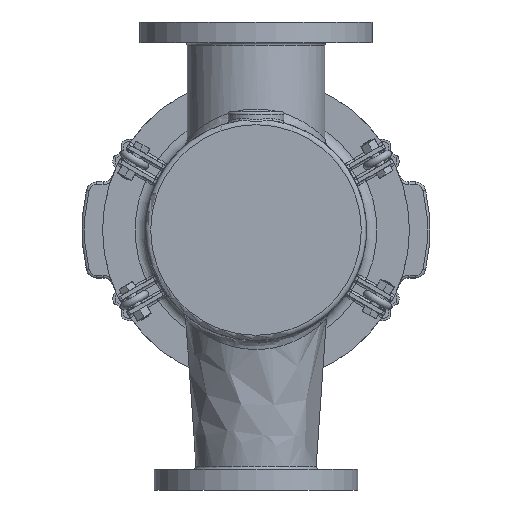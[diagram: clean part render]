
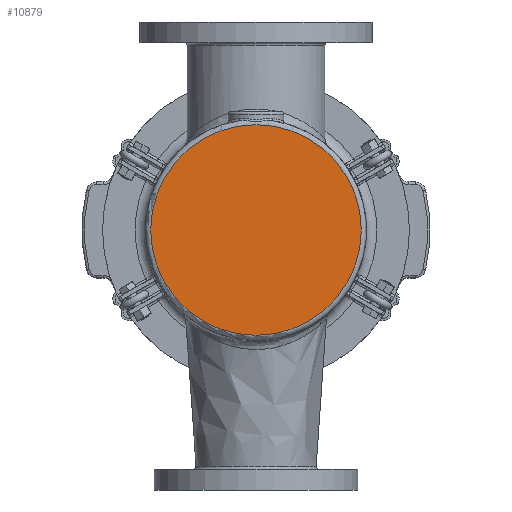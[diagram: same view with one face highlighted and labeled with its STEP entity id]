
A CAD part, front view. The second image highlights one B-rep face of the part: STEP entity #10879.
In plain terms, the highlighted planar face has unit normal (0, -1, 0).
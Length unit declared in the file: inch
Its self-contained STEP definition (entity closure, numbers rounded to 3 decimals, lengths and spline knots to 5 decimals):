
#1447=PLANE('',#11612);
#2371=FACE_OUTER_BOUND('',#3075,.T.);
#3075=EDGE_LOOP('',(#7296));
#3959=CIRCLE('',#11604,5.0625);
#4701=VERTEX_POINT('',#16785);
#5706=EDGE_CURVE('',#4701,#4701,#3959,.T.);
#7296=ORIENTED_EDGE('',*,*,#5706,.F.);
#10879=ADVANCED_FACE('',(#2371),#1447,.F.);
#11604=AXIS2_PLACEMENT_3D('',#16786,#13083,#13084);
#11612=AXIS2_PLACEMENT_3D('',#16797,#13099,#13100);
#13083=DIRECTION('center_axis',(0.,1.,0.));
#13084=DIRECTION('ref_axis',(1.,0.,0.));
#13099=DIRECTION('center_axis',(0.,1.,0.));
#13100=DIRECTION('ref_axis',(0.,0.,1.));
#16785=CARTESIAN_POINT('',(-5.0625,0.,0.));
#16786=CARTESIAN_POINT('Origin',(0.,0.,0.));
#16797=CARTESIAN_POINT('Origin',(0.,0.,0.));
